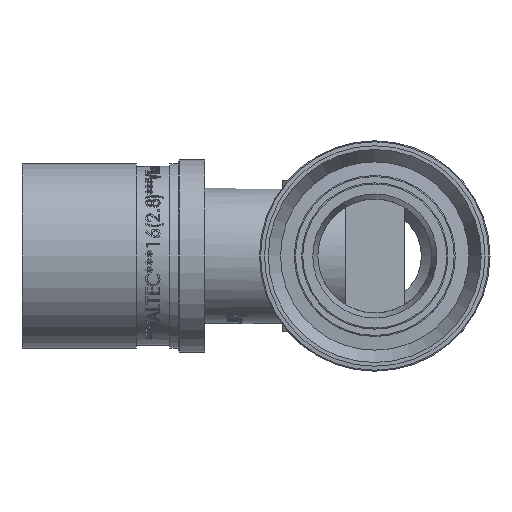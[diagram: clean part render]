
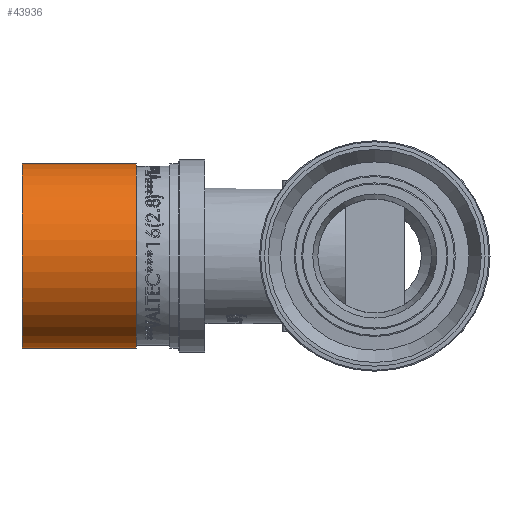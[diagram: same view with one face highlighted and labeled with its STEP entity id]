
A CAD part, left-side view. The second image highlights one B-rep face of the part: STEP entity #43936.
In plain terms, the highlighted cylindrical face has radius 12.5 mm (diameter 25 mm), a full revolution.
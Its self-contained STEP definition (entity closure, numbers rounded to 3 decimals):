
#452=CIRCLE('',#46261,12.5);
#453=CIRCLE('',#46262,12.5);
#454=CIRCLE('',#46264,12.5);
#455=CIRCLE('',#46265,12.5);
#4761=FACE_OUTER_BOUND('',#7351,.T.);
#7351=EDGE_LOOP('',(#34888,#34889,#34890,#34891,#34892,#34893));
#12983=LINE('',#76735,#16041);
#16041=VECTOR('',#51101,12.5);
#19602=VERTEX_POINT('',#76726);
#19603=VERTEX_POINT('',#76727);
#19604=VERTEX_POINT('',#76731);
#19605=VERTEX_POINT('',#76732);
#25180=EDGE_CURVE('',#19602,#19603,#452,.T.);
#25181=EDGE_CURVE('',#19603,#19602,#453,.T.);
#25182=EDGE_CURVE('',#19604,#19605,#454,.T.);
#25183=EDGE_CURVE('',#19605,#19604,#455,.T.);
#25184=EDGE_CURVE('',#19605,#19603,#12983,.T.);
#34888=ORIENTED_EDGE('',*,*,#25182,.F.);
#34889=ORIENTED_EDGE('',*,*,#25183,.F.);
#34890=ORIENTED_EDGE('',*,*,#25184,.T.);
#34891=ORIENTED_EDGE('',*,*,#25181,.T.);
#34892=ORIENTED_EDGE('',*,*,#25180,.T.);
#34893=ORIENTED_EDGE('',*,*,#25184,.F.);
#42656=CYLINDRICAL_SURFACE('',#46263,12.5);
#43936=ADVANCED_FACE('',(#4761),#42656,.T.);
#46261=AXIS2_PLACEMENT_3D('',#76728,#51091,#51092);
#46262=AXIS2_PLACEMENT_3D('',#76729,#51093,#51094);
#46263=AXIS2_PLACEMENT_3D('',#76730,#51095,#51096);
#46264=AXIS2_PLACEMENT_3D('',#76733,#51097,#51098);
#46265=AXIS2_PLACEMENT_3D('',#76734,#51099,#51100);
#51091=DIRECTION('center_axis',(0.,-1.,0.));
#51092=DIRECTION('ref_axis',(0.,0.,1.));
#51093=DIRECTION('center_axis',(0.,-1.,0.));
#51094=DIRECTION('ref_axis',(0.,0.,1.));
#51095=DIRECTION('center_axis',(0.,-1.,0.));
#51096=DIRECTION('ref_axis',(1.,0.,0.));
#51097=DIRECTION('center_axis',(0.,-1.,0.));
#51098=DIRECTION('ref_axis',(0.,0.,1.));
#51099=DIRECTION('center_axis',(0.,-1.,0.));
#51100=DIRECTION('ref_axis',(0.,0.,1.));
#51101=DIRECTION('',(0.,1.,0.));
#76726=CARTESIAN_POINT('',(12.5,47.762,0.));
#76727=CARTESIAN_POINT('',(-12.5,47.762,0.));
#76728=CARTESIAN_POINT('Origin',(0.,47.762,
0.));
#76729=CARTESIAN_POINT('Origin',(0.,47.762,
0.));
#76730=CARTESIAN_POINT('Origin',(0.,40.012,
0.));
#76731=CARTESIAN_POINT('',(12.5,32.262,0.));
#76732=CARTESIAN_POINT('',(-12.5,32.262,0.));
#76733=CARTESIAN_POINT('Origin',(0.,32.262,
0.));
#76734=CARTESIAN_POINT('Origin',(0.,32.262,
0.));
#76735=CARTESIAN_POINT('',(-12.5,40.012,0.));
